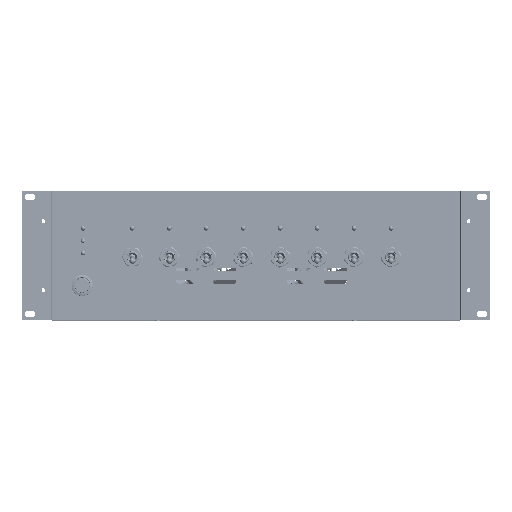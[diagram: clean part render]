
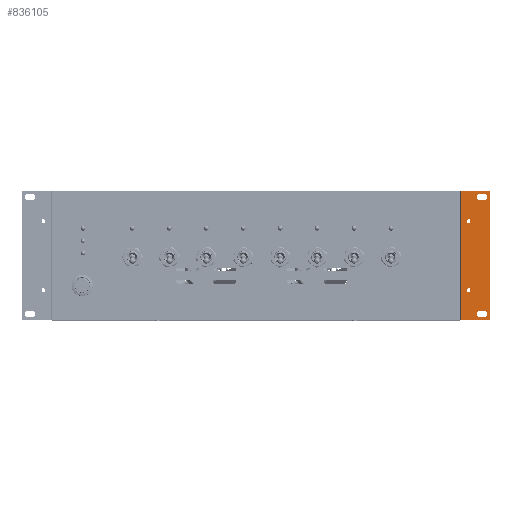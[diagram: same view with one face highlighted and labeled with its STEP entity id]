
A CAD part, top view. The second image highlights one B-rep face of the part: STEP entity #836105.
In plain terms, the highlighted planar face has unit normal (0, 0, 1).
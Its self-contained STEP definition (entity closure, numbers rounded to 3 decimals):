
#9180 = EDGE_CURVE ( 'NONE', #106692, #372284, #284421, .T. ) ;
#29403 = CARTESIAN_POINT ( 'NONE',  ( 441.69, 129.631, 457.2 ) ) ;
#32173 = AXIS2_PLACEMENT_3D ( 'NONE', #74171, #335169, #595910 ) ;
#34595 = AXIS2_PLACEMENT_3D ( 'NONE', #493172, #300777, #365001 ) ;
#38286 = AXIS2_PLACEMENT_3D ( 'NONE', #164405, #506282, #489506 ) ;
#47288 = EDGE_LOOP ( 'NONE', ( #830417, #85467, #507523, #636955 ) ) ;
#59295 = VECTOR ( 'NONE', #583020, 1000. ) ;
#62575 = CARTESIAN_POINT ( 'NONE',  ( 422.65, 132.425, 457.2 ) ) ;
#63709 = CARTESIAN_POINT ( 'NONE',  ( 446.06, 2.631, 457.2 ) ) ;
#64261 = FACE_BOUND ( 'NONE', #109556, .T. ) ;
#73585 = ORIENTED_EDGE ( 'NONE', *, *, #89280, .T. ) ;
#74171 = CARTESIAN_POINT ( 'NONE',  ( 446.06, 5.806, 457.2 ) ) ;
#75583 = VECTOR ( 'NONE', #515561, 1000. ) ;
#81135 = EDGE_CURVE ( 'NONE', #273056, #822473, #830209, .T. ) ;
#85002 = CARTESIAN_POINT ( 'NONE',  ( 422.65, -0.163, 457.2 ) ) ;
#85467 = ORIENTED_EDGE ( 'NONE', *, *, #132738, .T. ) ;
#89280 = EDGE_CURVE ( 'NONE', #273056, #171247, #314769, .T. ) ;
#106692 = VERTEX_POINT ( 'NONE', #215761 ) ;
#108660 = CARTESIAN_POINT ( 'NONE',  ( 430.032, 101.691, 457.2 ) ) ;
#109556 = EDGE_LOOP ( 'NONE', ( #783860 ) ) ;
#114265 = LINE ( 'NONE', #375339, #833553 ) ;
#121046 = AXIS2_PLACEMENT_3D ( 'NONE', #346175, #466044, #474501 ) ;
#132738 = EDGE_CURVE ( 'NONE', #730308, #186843, #170716, .T. ) ;
#136782 = FACE_BOUND ( 'NONE', #47288, .T. ) ;
#160089 = EDGE_CURVE ( 'NONE', #186843, #106692, #491473, .T. ) ;
#164159 = ORIENTED_EDGE ( 'NONE', *, *, #294325, .T. ) ;
#164405 = CARTESIAN_POINT ( 'NONE',  ( 446.06, 126.456, 457.2 ) ) ;
#170581 = DIRECTION ( 'NONE',  ( 1., 0., 0. ) ) ;
#170716 = CIRCLE ( 'NONE', #34595, 3.175 ) ;
#171247 = VERTEX_POINT ( 'NONE', #696573 ) ;
#171475 = CARTESIAN_POINT ( 'NONE',  ( 452.13, 132.425, 457.2 ) ) ;
#173041 = VECTOR ( 'NONE', #244237, 1000. ) ;
#186843 = VERTEX_POINT ( 'NONE', #29403 ) ;
#191778 = AXIS2_PLACEMENT_3D ( 'NONE', #298170, #558928, #233852 ) ;
#195692 = EDGE_CURVE ( 'NONE', #372284, #730308, #457332, .T. ) ;
#213587 = CARTESIAN_POINT ( 'NONE',  ( 452.13, -0.163, 457.2 ) ) ;
#215761 = CARTESIAN_POINT ( 'NONE',  ( 446.06, 129.631, 457.2 ) ) ;
#224318 = CARTESIAN_POINT ( 'NONE',  ( 446.06, 8.981, 457.2 ) ) ;
#233852 = DIRECTION ( 'NONE',  ( 0., -1., 0. ) ) ;
#240016 = CARTESIAN_POINT ( 'NONE',  ( 452.13, -0.163, 457.2 ) ) ;
#244237 = DIRECTION ( 'NONE',  ( -1., 0., 0. ) ) ;
#246631 = CARTESIAN_POINT ( 'NONE',  ( 428.038, 30.571, 457.2 ) ) ;
#273056 = VERTEX_POINT ( 'NONE', #707320 ) ;
#284421 = CIRCLE ( 'NONE', #38286, 3.175 ) ;
#294325 = EDGE_CURVE ( 'NONE', #723852, #579291, #491451, .T. ) ;
#298170 = CARTESIAN_POINT ( 'NONE',  ( 441.69, 5.806, 457.2 ) ) ;
#299993 = ORIENTED_EDGE ( 'NONE', *, *, #81135, .F. ) ;
#300777 = DIRECTION ( 'NONE',  ( 0., 0., -1. ) ) ;
#312300 = CARTESIAN_POINT ( 'NONE',  ( 446.06, 123.281, 457.2 ) ) ;
#314769 = LINE ( 'NONE', #827966, #75583 ) ;
#316801 = PLANE ( 'NONE',  #831791 ) ;
#321004 = FACE_BOUND ( 'NONE', #568380, .T. ) ;
#324931 = ORIENTED_EDGE ( 'NONE', *, *, #375241, .T. ) ;
#330692 = LINE ( 'NONE', #719730, #59295 ) ;
#335169 = DIRECTION ( 'NONE',  ( 0., 0., -1. ) ) ;
#337354 = EDGE_CURVE ( 'NONE', #822473, #727809, #330692, .T. ) ;
#346175 = CARTESIAN_POINT ( 'NONE',  ( 430.032, 30.571, 457.2 ) ) ;
#353793 = CIRCLE ( 'NONE', #121046, 1.994 ) ;
#358707 = CARTESIAN_POINT ( 'NONE',  ( 441.69, 2.631, 457.2 ) ) ;
#362465 = VERTEX_POINT ( 'NONE', #747396 ) ;
#365001 = DIRECTION ( 'NONE',  ( 0., -1., 0. ) ) ;
#369711 = DIRECTION ( 'NONE',  ( 0., 0., -1. ) ) ;
#372284 = VERTEX_POINT ( 'NONE', #698901 ) ;
#375241 = EDGE_CURVE ( 'NONE', #579291, #569721, #401072, .T. ) ;
#375339 = CARTESIAN_POINT ( 'NONE',  ( 446.06, 2.631, 457.2 ) ) ;
#401072 = CIRCLE ( 'NONE', #32173, 3.175 ) ;
#427338 = CARTESIAN_POINT ( 'NONE',  ( 441.69, 8.981, 457.2 ) ) ;
#432459 = DIRECTION ( 'NONE',  ( -1., 0., 0. ) ) ;
#445494 = ORIENTED_EDGE ( 'NONE', *, *, #337354, .F. ) ;
#457332 = LINE ( 'NONE', #312300, #588984 ) ;
#466044 = DIRECTION ( 'NONE',  ( 0., 0., -1. ) ) ;
#474501 = DIRECTION ( 'NONE',  ( -1., 0., 0. ) ) ;
#489506 = DIRECTION ( 'NONE',  ( 0., 1., 0. ) ) ;
#491451 = LINE ( 'NONE', #427338, #831395 ) ;
#491473 = LINE ( 'NONE', #752424, #802961 ) ;
#493172 = CARTESIAN_POINT ( 'NONE',  ( 441.69, 126.456, 457.2 ) ) ;
#497977 = VECTOR ( 'NONE', #432459, 1000. ) ;
#503968 = CIRCLE ( 'NONE', #654136, 1.994 ) ;
#506242 = VERTEX_POINT ( 'NONE', #358707 ) ;
#506282 = DIRECTION ( 'NONE',  ( 0., 0., -1. ) ) ;
#507052 = CARTESIAN_POINT ( 'NONE',  ( 441.69, 8.981, 457.2 ) ) ;
#507523 = ORIENTED_EDGE ( 'NONE', *, *, #160089, .T. ) ;
#515561 = DIRECTION ( 'NONE',  ( 0., 1., 0. ) ) ;
#521781 = FACE_BOUND ( 'NONE', #703361, .T. ) ;
#537195 = ORIENTED_EDGE ( 'NONE', *, *, #838757, .T. ) ;
#544252 = EDGE_CURVE ( 'NONE', #569721, #506242, #114265, .T. ) ;
#558928 = DIRECTION ( 'NONE',  ( 0., 0., -1. ) ) ;
#560654 = CIRCLE ( 'NONE', #191778, 3.175 ) ;
#568380 = EDGE_LOOP ( 'NONE', ( #537195 ) ) ;
#569721 = VERTEX_POINT ( 'NONE', #63709 ) ;
#579291 = VERTEX_POINT ( 'NONE', #224318 ) ;
#581375 = DIRECTION ( 'NONE',  ( -1., 0., 0. ) ) ;
#581736 = FACE_OUTER_BOUND ( 'NONE', #750422, .T. ) ;
#583020 = DIRECTION ( 'NONE',  ( 0., 1., 0. ) ) ;
#588984 = VECTOR ( 'NONE', #581375, 1000. ) ;
#595910 = DIRECTION ( 'NONE',  ( 0., 1., 0. ) ) ;
#598587 = DIRECTION ( 'NONE',  ( 1., 0., 0. ) ) ;
#610988 = EDGE_CURVE ( 'NONE', #171247, #727809, #701654, .T. ) ;
#621832 = CARTESIAN_POINT ( 'NONE',  ( 441.69, 123.281, 457.2 ) ) ;
#630376 = DIRECTION ( 'NONE',  ( -1., 0., 0. ) ) ;
#636054 = DIRECTION ( 'NONE',  ( -1., 0., 0. ) ) ;
#636675 = DIRECTION ( 'NONE',  ( 1., 0., 0. ) ) ;
#636955 = ORIENTED_EDGE ( 'NONE', *, *, #9180, .T. ) ;
#654136 = AXIS2_PLACEMENT_3D ( 'NONE', #108660, #369711, #630376 ) ;
#662766 = DIRECTION ( 'NONE',  ( 0., 0., 1. ) ) ;
#669171 = EDGE_CURVE ( 'NONE', #506242, #723852, #560654, .T. ) ;
#686260 = EDGE_CURVE ( 'NONE', #704257, #704257, #353793, .T. ) ;
#696573 = CARTESIAN_POINT ( 'NONE',  ( 452.13, 132.425, 457.2 ) ) ;
#698901 = CARTESIAN_POINT ( 'NONE',  ( 446.06, 123.281, 457.2 ) ) ;
#701654 = LINE ( 'NONE', #171475, #497977 ) ;
#703361 = EDGE_LOOP ( 'NONE', ( #324931, #737659, #734850, #164159 ) ) ;
#704257 = VERTEX_POINT ( 'NONE', #246631 ) ;
#707320 = CARTESIAN_POINT ( 'NONE',  ( 452.13, -0.163, 457.2 ) ) ;
#719730 = CARTESIAN_POINT ( 'NONE',  ( 422.65, -0.163, 457.2 ) ) ;
#723852 = VERTEX_POINT ( 'NONE', #507052 ) ;
#727809 = VERTEX_POINT ( 'NONE', #62575 ) ;
#730308 = VERTEX_POINT ( 'NONE', #621832 ) ;
#734850 = ORIENTED_EDGE ( 'NONE', *, *, #669171, .T. ) ;
#737659 = ORIENTED_EDGE ( 'NONE', *, *, #544252, .T. ) ;
#747396 = CARTESIAN_POINT ( 'NONE',  ( 428.038, 101.691, 457.2 ) ) ;
#750422 = EDGE_LOOP ( 'NONE', ( #786840, #445494, #299993, #73585 ) ) ;
#752424 = CARTESIAN_POINT ( 'NONE',  ( 441.69, 129.631, 457.2 ) ) ;
#783860 = ORIENTED_EDGE ( 'NONE', *, *, #686260, .T. ) ;
#786840 = ORIENTED_EDGE ( 'NONE', *, *, #610988, .T. ) ;
#802961 = VECTOR ( 'NONE', #636675, 1000. ) ;
#822473 = VERTEX_POINT ( 'NONE', #85002 ) ;
#827966 = CARTESIAN_POINT ( 'NONE',  ( 452.13, -0.163, 457.2 ) ) ;
#830209 = LINE ( 'NONE', #240016, #173041 ) ;
#830417 = ORIENTED_EDGE ( 'NONE', *, *, #195692, .T. ) ;
#831395 = VECTOR ( 'NONE', #170581, 1000. ) ;
#831791 = AXIS2_PLACEMENT_3D ( 'NONE', #213587, #662766, #598587 ) ;
#833553 = VECTOR ( 'NONE', #636054, 1000. ) ;
#836105 = ADVANCED_FACE ( 'NONE', ( #321004, #64261, #136782, #521781, #581736 ), #316801, .T. ) ;
#838757 = EDGE_CURVE ( 'NONE', #362465, #362465, #503968, .T. ) ;
